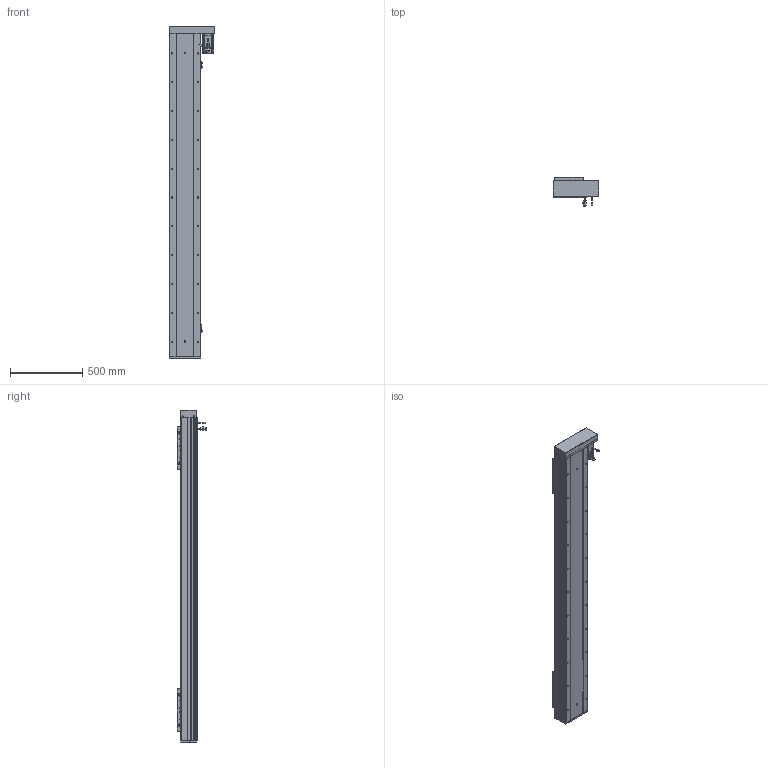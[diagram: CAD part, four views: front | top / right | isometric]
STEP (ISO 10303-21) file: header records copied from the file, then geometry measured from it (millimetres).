
FILE_DESCRIPTION (( 'STEP AP203' ), '1' );
FILE_NAME ('RY220F-L2525-800-RK-邧嶺.SLDASM_1800.step', '2022-08-06T08:19:53', ( '' ), ( '' ), 'SwSTEP 2.0', 'SolidWorks 2016', '' );
FILE_SCHEMA (( 'CONFIG_CONTROL_DESIGN' ));
Length unit declared in the file: millimetre
Products named in the file (15): 覜茼ん672; RY220F蛌殏菁釱-800-邧嶺_1800; RY220F-L2525-800-RK-邧嶺.SLDASM_1800; RY220F-詩湍揤踡輸; RY220左右折电机安装板; RY220F-祥凄詩湍-蛌殏-800_1800; RY220F-蛌殏奻裔啣-800_1800; RY220F臏賑釱25-32佪裝; RY220F綴裔啣; RY220酘衵殏萇儂欶; RY220F-滅鳥奻裔; RY220F-672覜茼んえ; 侐源滅袉蝶; 滅袉蝶18-24; 怢湛750W_ECMA-CX0807ES
Assembly tree (24 placements, depth 2):
  RY220F-L2525-800-RK-邧嶺.SLDASM_1800
    RY220F蛌殏菁釱-800-邧嶺_1800
    RY220F-蛌殏奻裔啣-800_1800  x2
    怢湛750W_ECMA-CX0807ES
    RY220F臏賑釱25-32佪裝  x2
    RY220F-滅鳥奻裔  x2
    滅袉蝶18-24  x3
    RY220F綴裔啣
    RY220F-祥凄詩湍-蛌殏-800_1800
    RY220F-詩湍揤踡輸  x2
    覜茼ん672  x3
    RY220F-672覜茼んえ  x2
    RY220左右折电机安装板
    RY220酘衵殏萇儂欶
    侐源滅袉蝶  x2
Bounding box: 317.5 x 205.27 x 2303 mm (x, y, z)
Volume: 19909531 mm3; surface area: 5298399.5 mm2
Topology: 25 solids, 25 shells, 2880 faces, 7816 edges, 4810 vertices
Faces by surface type: cylinder 1310, plane 1044, cone 455, bspline 45, sphere 16, torus 10
Entity records: 71732 total; most frequent: CARTESIAN_POINT 19143, ORIENTED_EDGE 10582, DIRECTION 10416, EDGE_CURVE 5291, AXIS2_PLACEMENT_3D 3734, VERTEX_POINT 3426, LINE 2948, VECTOR 2948
